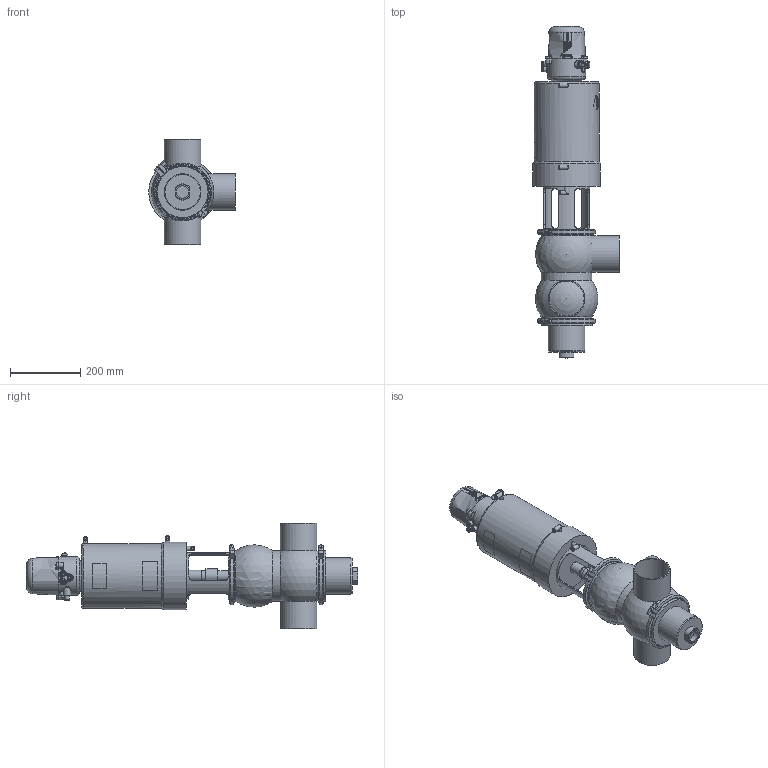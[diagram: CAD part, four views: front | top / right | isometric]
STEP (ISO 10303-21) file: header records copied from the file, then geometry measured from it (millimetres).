
FILE_DESCRIPTION (( 'STEP AP214' ), '1' );
FILE_NAME ('INNOVA P BB-90 W DIN 100 & C-TOP S_10.250.16.0013.STEP', '2024-08-09T11:57:37', ( '' ), ( '' ), 'SwSTEP 2.0', 'SolidWorks 2023', '' );
FILE_SCHEMA (( 'AUTOMOTIVE_DESIGN' ));
Length unit declared in the file: millimetre
Products named in the file (7): 10.426.15.0001_C-TOP S - 3 EV; 10.250.15.0002_Type P T3; 10.240.15.0001_DN 100; 10.250.15.0003_DN 100; INNOVA P BB-90 W DIN 100 & C-TOP S_10.250.16.0013; 10.251.15.0005_DIN 100; 10.250.15.0001_DIN 100
Assembly tree (7 placements, depth 2):
  INNOVA P BB-90 W DIN 100 & C-TOP S_10.250.16.0013
    10.250.15.0001_DIN 100
    10.250.15.0002_Type P T3
    10.426.15.0001_C-TOP S - 3 EV
    10.251.15.0005_DIN 100
    10.240.15.0001_DN 100  x2
    10.250.15.0003_DN 100
Bounding box: 246.5 x 946.5 x 300 mm (x, y, z)
Volume: 16490117 mm3; surface area: 885706.6 mm2
Topology: 7 solids, 7 shells, 1207 faces, 2915 edges, 1938 vertices
Faces by surface type: plane 413, cylinder 385, cone 204, bspline 162, torus 33, sphere 10
Full cylindrical faces by diameter (mm): 0.371 x17, 0.512 x16, 0.658 x16, 0.795 x16, 0.94 x15, 1.098 x15, 1.241 x13, 1.382 x13, 1.523 x11, 1.669 x10, 2.201 x1, 4.2 x2, 5 x1, 5.5 x2, 6 x4, 6.15 x3, 8 x5, 10 x1, 10.5 x3, 11 x4, 12.5 x9, 13 x6, 13.5 x2, 17 x3, 20 x2, 22 x2, 30.5 x2, 32 x1, 35 x1, 41 x1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
Entity records: 60155 total; most frequent: CARTESIAN_POINT 28682, ORIENTED_EDGE 4626, DIRECTION 3773, EDGE_CURVE 2313, VERTEX_POINT 1649, EDGE_LOOP 1628, AXIS2_PLACEMENT_3D 1556, FACE_OUTER_BOUND 1376
